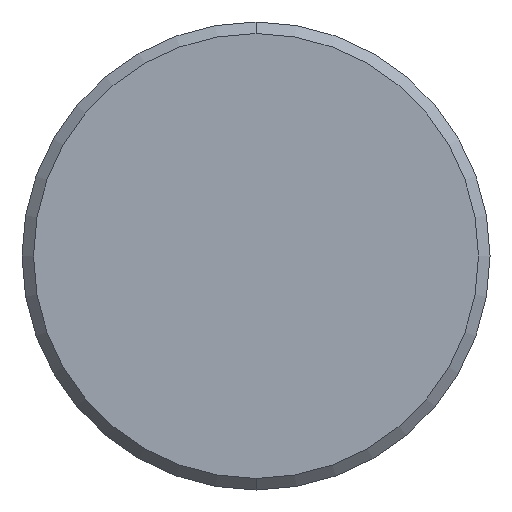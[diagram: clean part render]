
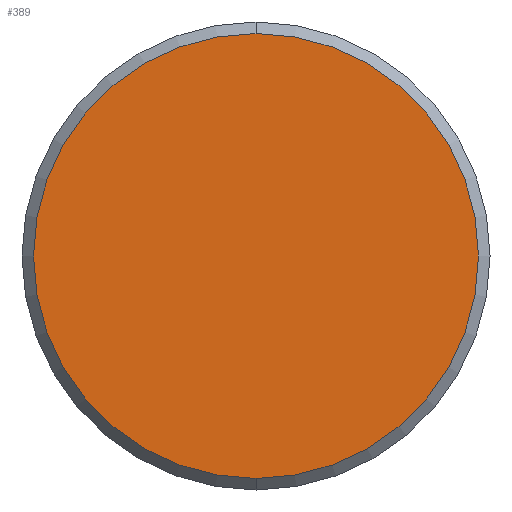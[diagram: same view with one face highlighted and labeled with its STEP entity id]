
A CAD part, front view. The second image highlights one B-rep face of the part: STEP entity #389.
In plain terms, the highlighted planar face has unit normal (0, -1, 0).
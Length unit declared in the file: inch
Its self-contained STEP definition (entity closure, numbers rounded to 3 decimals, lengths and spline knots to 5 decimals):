
#9 = DIRECTION ( 'NONE',  ( 0., 0., -1. ) ) ;
#14 = CIRCLE ( 'NONE', #400, 0.193 ) ;
#48 = DIRECTION ( 'NONE',  ( 0., -1., 0. ) ) ;
#54 = CARTESIAN_POINT ( 'NONE',  ( 0., 0., -0.193 ) ) ;
#58 = AXIS2_PLACEMENT_3D ( 'NONE', #289, #341, #9 ) ;
#78 = AXIS2_PLACEMENT_3D ( 'NONE', #325, #48, #296 ) ;
#81 = DIRECTION ( 'NONE',  ( 0., -1., 0. ) ) ;
#82 = VERTEX_POINT ( 'NONE', #54 ) ;
#136 = FACE_OUTER_BOUND ( 'NONE', #266, .T. ) ;
#139 = DIRECTION ( 'NONE',  ( 0., 0., -1. ) ) ;
#144 = VERTEX_POINT ( 'NONE', #156 ) ;
#156 = CARTESIAN_POINT ( 'NONE',  ( 0., 0., 0.193 ) ) ;
#174 = ORIENTED_EDGE ( 'NONE', *, *, #348, .T. ) ;
#236 = CIRCLE ( 'NONE', #58, 0.193 ) ;
#266 = EDGE_LOOP ( 'NONE', ( #174, #386 ) ) ;
#278 = EDGE_CURVE ( 'NONE', #82, #144, #236, .T. ) ;
#289 = CARTESIAN_POINT ( 'NONE',  ( 0., 0., 0. ) ) ;
#296 = DIRECTION ( 'NONE',  ( 0., 0., -1. ) ) ;
#321 = PLANE ( 'NONE',  #78 ) ;
#325 = CARTESIAN_POINT ( 'NONE',  ( 0., 0., 0. ) ) ;
#341 = DIRECTION ( 'NONE',  ( 0., -1., 0. ) ) ;
#348 = EDGE_CURVE ( 'NONE', #144, #82, #14, .T. ) ;
#384 = CARTESIAN_POINT ( 'NONE',  ( 0., 0., 0. ) ) ;
#386 = ORIENTED_EDGE ( 'NONE', *, *, #278, .T. ) ;
#389 = ADVANCED_FACE ( 'NONE', ( #136 ), #321, .T. ) ;
#400 = AXIS2_PLACEMENT_3D ( 'NONE', #384, #81, #139 ) ;
